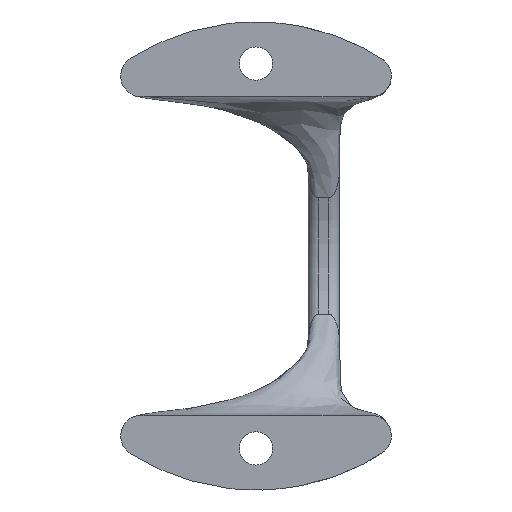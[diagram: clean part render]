
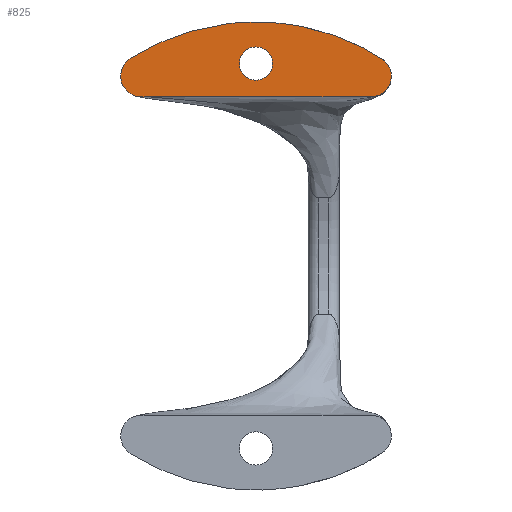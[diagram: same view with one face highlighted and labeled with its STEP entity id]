
A CAD part, left-side view. The second image highlights one B-rep face of the part: STEP entity #825.
In plain terms, the highlighted planar face has unit normal (-1, 0, 0).
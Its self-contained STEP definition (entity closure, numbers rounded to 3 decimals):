
#37=B_SPLINE_CURVE_WITH_KNOTS('',3,(#3929,#3930,#3931,#3932,#3933,#3934,
#3935,#3936,#3937,#3938,#3939,#3940,#3941,#3942,#3943,#3944,#3945,#3946,
#3947,#3948,#3949,#3950,#3951,#3952,#3953,#3954,#3955,#3956,#3957,#3958,
#3959,#3960,#3961,#3962,#3963,#3964,#3965,#3966,#3967,#3968,#3969,#3970,
#3971,#3972,#3973,#3974,#3975,#3976,#3977,#3978,#3979,#3980,#3981,#3982,
#3983,#3984,#3985,#3986,#3987,#3988,#3989,#3990,#3991,#3992,#3993,#3994,
#3995,#3996,#3997,#3998,#3999,#4000,#4001,#4002,#4003,#4004,#4005),
 .UNSPECIFIED.,.F.,.F.,(4,1,1,1,1,1,1,1,1,1,2,1,1,1,2,1,1,1,1,1,2,1,1,1,
1,1,1,1,1,1,1,1,2,1,1,2,1,1,1,1,1,1,1,1,1,1,1,1,2,1,1,2,1,1,1,1,1,1,2,1,
1,1,1,1,1,1,4),(0.,0.02,0.04,0.06,
0.08,0.085,0.09,0.1,
0.12,0.14,0.16,0.185,0.209,
0.234,0.259,0.322,0.337,
0.345,0.353,0.369,0.384,
0.409,0.415,0.421,0.427,
0.433,0.439,0.457,0.469,
0.472,0.476,0.479,0.482,
0.491,0.5,0.518,0.521,
0.528,0.531,0.537,0.543,
0.555,0.567,0.573,0.579,
0.585,0.591,0.604,0.616,
0.648,0.657,0.681,0.687,
0.69,0.693,0.706,0.73,
0.755,0.78,0.807,0.835,
0.862,0.89,0.917,0.945,
0.972,1.),.UNSPECIFIED.);
#47=FACE_BOUND('',#149,.T.);
#62=PLANE('',#922);
#96=FACE_OUTER_BOUND('',#148,.T.);
#148=EDGE_LOOP('',(#687,#688));
#149=EDGE_LOOP('',(#689));
#311=CIRCLE('',#917,1.6);
#314=CIRCLE('',#923,22.5);
#394=VERTEX_POINT('',#3921);
#395=VERTEX_POINT('',#3928);
#396=VERTEX_POINT('',#4013);
#499=EDGE_CURVE('',#394,#395,#37,.T.);
#501=EDGE_CURVE('',#396,#396,#311,.T.);
#507=EDGE_CURVE('',#395,#394,#314,.T.);
#687=ORIENTED_EDGE('',*,*,#507,.F.);
#688=ORIENTED_EDGE('',*,*,#499,.F.);
#689=ORIENTED_EDGE('',*,*,#501,.T.);
#825=ADVANCED_FACE('',(#96,#47),#62,.F.);
#917=AXIS2_PLACEMENT_3D('',#4014,#1115,#1116);
#922=AXIS2_PLACEMENT_3D('',#4077,#1128,#1129);
#923=AXIS2_PLACEMENT_3D('',#4078,#1130,#1131);
#1115=DIRECTION('center_axis',(1.,0.,0.));
#1116=DIRECTION('ref_axis',(0.,1.,0.));
#1128=DIRECTION('center_axis',(1.,0.,0.));
#1129=DIRECTION('ref_axis',(0.,0.,-1.));
#1130=DIRECTION('center_axis',(1.,0.,0.));
#1131=DIRECTION('ref_axis',(0.,0.537,0.844));
#3921=CARTESIAN_POINT('',(9.67,-4.38,109.24));
#3928=CARTESIAN_POINT('',(9.67,1.274,109.634));
#3929=CARTESIAN_POINT('Ctrl Pts',(9.67,-4.38,109.24));
#3930=CARTESIAN_POINT('Ctrl Pts',(9.67,-4.417,109.232));
#3931=CARTESIAN_POINT('Ctrl Pts',(9.67,-4.501,109.216));
#3932=CARTESIAN_POINT('Ctrl Pts',(9.67,-5.002,109.111));
#3933=CARTESIAN_POINT('Ctrl Pts',(9.67,-5.958,108.877));
#3934=CARTESIAN_POINT('Ctrl Pts',(9.67,-6.935,108.582));
#3935=CARTESIAN_POINT('Ctrl Pts',(9.67,-7.629,108.338));
#3936=CARTESIAN_POINT('Ctrl Pts',(9.67,-8.098,108.165));
#3937=CARTESIAN_POINT('Ctrl Pts',(9.67,-8.925,107.836));
#3938=CARTESIAN_POINT('Ctrl Pts',(9.67,-10.054,107.316));
#3939=CARTESIAN_POINT('Ctrl Pts',(9.67,-11.182,106.706));
#3940=CARTESIAN_POINT('Ctrl Pts',(9.67,-11.784,106.341));
#3941=CARTESIAN_POINT('Ctrl Pts',(9.67,-12.438,105.925));
#3942=CARTESIAN_POINT('Ctrl Pts',(9.67,-13.008,105.223));
#3943=CARTESIAN_POINT('Ctrl Pts',(9.67,-13.062,103.868));
#3944=CARTESIAN_POINT('Ctrl Pts',(9.67,-12.289,102.753));
#3945=CARTESIAN_POINT('Ctrl Pts',(9.67,-11.432,102.467));
#3946=CARTESIAN_POINT('Ctrl Pts',(9.67,-9.914,102.467));
#3947=CARTESIAN_POINT('Ctrl Pts',(9.67,-8.553,102.467));
#3948=CARTESIAN_POINT('Ctrl Pts',(9.67,-7.055,102.467));
#3949=CARTESIAN_POINT('Ctrl Pts',(9.67,-6.511,102.467));
#3950=CARTESIAN_POINT('Ctrl Pts',(9.67,-5.966,102.467));
#3951=CARTESIAN_POINT('Ctrl Pts',(9.67,-5.286,102.467));
#3952=CARTESIAN_POINT('Ctrl Pts',(9.67,-4.741,102.467));
#3953=CARTESIAN_POINT('Ctrl Pts',(9.67,-4.046,102.467));
#3954=CARTESIAN_POINT('Ctrl Pts',(9.67,-3.517,102.467));
#3955=CARTESIAN_POINT('Ctrl Pts',(9.67,-2.882,102.467));
#3956=CARTESIAN_POINT('Ctrl Pts',(9.67,-2.565,102.467));
#3957=CARTESIAN_POINT('Ctrl Pts',(9.67,-2.247,102.467));
#3958=CARTESIAN_POINT('Ctrl Pts',(9.67,-1.93,102.467));
#3959=CARTESIAN_POINT('Ctrl Pts',(9.67,-1.401,102.467));
#3960=CARTESIAN_POINT('Ctrl Pts',(9.67,-0.766,102.467));
#3961=CARTESIAN_POINT('Ctrl Pts',(9.67,-0.184,102.467));
#3962=CARTESIAN_POINT('Ctrl Pts',(9.67,0.133,102.467));
#3963=CARTESIAN_POINT('Ctrl Pts',(9.67,0.292,102.467));
#3964=CARTESIAN_POINT('Ctrl Pts',(9.67,0.45,102.467));
#3965=CARTESIAN_POINT('Ctrl Pts',(9.67,0.556,102.467));
#3966=CARTESIAN_POINT('Ctrl Pts',(9.67,0.769,102.467));
#3967=CARTESIAN_POINT('Ctrl Pts',(9.67,1.088,102.467));
#3968=CARTESIAN_POINT('Ctrl Pts',(9.67,1.726,102.467));
#3969=CARTESIAN_POINT('Ctrl Pts',(9.67,2.205,102.467));
#3970=CARTESIAN_POINT('Ctrl Pts',(9.67,2.577,102.467));
#3971=CARTESIAN_POINT('Ctrl Pts',(9.67,2.736,102.467));
#3972=CARTESIAN_POINT('Ctrl Pts',(9.67,2.948,102.467));
#3973=CARTESIAN_POINT('Ctrl Pts',(9.67,3.212,102.467));
#3974=CARTESIAN_POINT('Ctrl Pts',(9.67,3.477,102.467));
#3975=CARTESIAN_POINT('Ctrl Pts',(9.67,3.9,102.467));
#3976=CARTESIAN_POINT('Ctrl Pts',(9.67,4.429,102.467));
#3977=CARTESIAN_POINT('Ctrl Pts',(9.67,4.958,102.467));
#3978=CARTESIAN_POINT('Ctrl Pts',(9.67,5.381,102.467));
#3979=CARTESIAN_POINT('Ctrl Pts',(9.67,5.698,102.467));
#3980=CARTESIAN_POINT('Ctrl Pts',(9.67,6.016,102.467));
#3981=CARTESIAN_POINT('Ctrl Pts',(9.67,6.439,102.467));
#3982=CARTESIAN_POINT('Ctrl Pts',(9.67,6.968,102.467));
#3983=CARTESIAN_POINT('Ctrl Pts',(9.67,7.391,102.467));
#3984=CARTESIAN_POINT('Ctrl Pts',(9.67,8.169,102.467));
#3985=CARTESIAN_POINT('Ctrl Pts',(9.67,8.878,102.467));
#3986=CARTESIAN_POINT('Ctrl Pts',(9.67,10.011,102.467));
#3987=CARTESIAN_POINT('Ctrl Pts',(9.67,10.578,102.467));
#3988=CARTESIAN_POINT('Ctrl Pts',(9.67,11.11,102.467));
#3989=CARTESIAN_POINT('Ctrl Pts',(9.67,11.271,102.48));
#3990=CARTESIAN_POINT('Ctrl Pts',(9.67,11.482,102.523));
#3991=CARTESIAN_POINT('Ctrl Pts',(9.67,11.791,102.613));
#3992=CARTESIAN_POINT('Ctrl Pts',(9.67,12.418,102.939));
#3993=CARTESIAN_POINT('Ctrl Pts',(9.67,13.062,103.867));
#3994=CARTESIAN_POINT('Ctrl Pts',(9.67,13.008,105.223));
#3995=CARTESIAN_POINT('Ctrl Pts',(9.67,12.438,105.924));
#3996=CARTESIAN_POINT('Ctrl Pts',(9.67,11.673,106.411));
#3997=CARTESIAN_POINT('Ctrl Pts',(9.67,10.842,106.906));
#3998=CARTESIAN_POINT('Ctrl Pts',(9.67,9.266,107.704));
#3999=CARTESIAN_POINT('Ctrl Pts',(9.67,7.361,108.467));
#4000=CARTESIAN_POINT('Ctrl Pts',(9.67,5.33,109.062));
#4001=CARTESIAN_POINT('Ctrl Pts',(9.67,3.491,109.418));
#4002=CARTESIAN_POINT('Ctrl Pts',(9.67,2.145,109.575));
#4003=CARTESIAN_POINT('Ctrl Pts',(9.67,1.443,109.624));
#4004=CARTESIAN_POINT('Ctrl Pts',(9.67,1.326,109.631));
#4005=CARTESIAN_POINT('Ctrl Pts',(9.67,1.274,109.634));
#4013=CARTESIAN_POINT('',(9.67,-1.6,105.67));
#4014=CARTESIAN_POINT('Origin',(9.67,0.,
105.67));
#4077=CARTESIAN_POINT('Origin',(9.67,-0.25,105.828));
#4078=CARTESIAN_POINT('Origin',(9.67,0.,
87.17));
